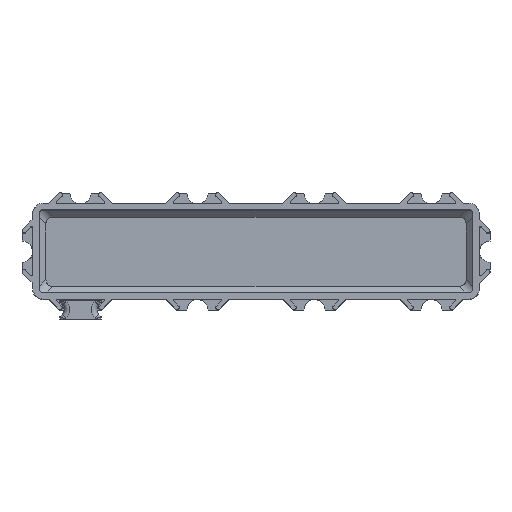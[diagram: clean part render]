
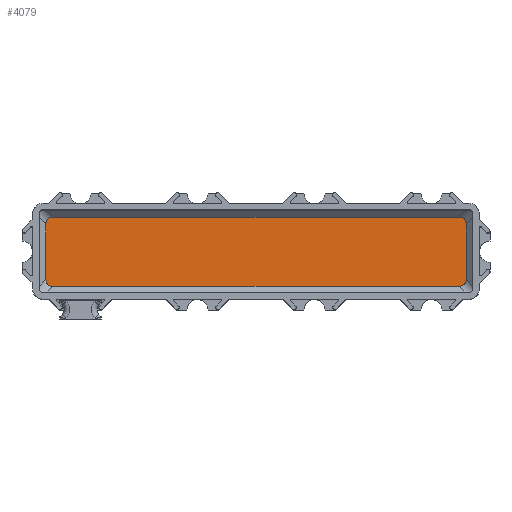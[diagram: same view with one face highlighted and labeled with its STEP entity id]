
A CAD part, top view. The second image highlights one B-rep face of the part: STEP entity #4079.
In plain terms, the highlighted planar face has unit normal (0, 0, 1).
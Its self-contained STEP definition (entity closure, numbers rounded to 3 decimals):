
#324=LINE('',#6716,#684);
#330=LINE('',#6745,#690);
#341=LINE('',#6804,#701);
#343=LINE('',#6807,#703);
#684=VECTOR('',#5507,10.);
#690=VECTOR('',#5527,10.);
#701=VECTOR('',#5564,10.);
#703=VECTOR('',#5568,10.);
#844=PLANE('',#4488);
#1023=FACE_OUTER_BOUND('',#1231,.T.);
#1231=EDGE_LOOP('',(#3400,#3401,#3402,#3403,#3404,#3405,#3406,#3407));
#1322=ELLIPSE('',#4462,3.118,1.8);
#1326=ELLIPSE('',#4470,3.118,1.8);
#1329=ELLIPSE('',#4478,3.118,1.8);
#1331=ELLIPSE('',#4482,3.118,1.8);
#1798=VERTEX_POINT('',#6690);
#1799=VERTEX_POINT('',#6691);
#1804=VERTEX_POINT('',#6715);
#1807=VERTEX_POINT('',#6725);
#1810=VERTEX_POINT('',#6744);
#1814=VERTEX_POINT('',#6767);
#1818=VERTEX_POINT('',#6792);
#1819=VERTEX_POINT('',#6793);
#2326=EDGE_CURVE('',#1798,#1799,#1322,.T.);
#2334=EDGE_CURVE('',#1804,#1798,#324,.T.);
#2339=EDGE_CURVE('',#1807,#1804,#1326,.T.);
#2344=EDGE_CURVE('',#1810,#1807,#330,.T.);
#2351=EDGE_CURVE('',#1814,#1810,#1329,.T.);
#2357=EDGE_CURVE('',#1818,#1819,#1331,.T.);
#2363=EDGE_CURVE('',#1819,#1814,#341,.T.);
#2365=EDGE_CURVE('',#1799,#1818,#343,.T.);
#3400=ORIENTED_EDGE('',*,*,#2326,.T.);
#3401=ORIENTED_EDGE('',*,*,#2365,.T.);
#3402=ORIENTED_EDGE('',*,*,#2357,.T.);
#3403=ORIENTED_EDGE('',*,*,#2363,.T.);
#3404=ORIENTED_EDGE('',*,*,#2351,.T.);
#3405=ORIENTED_EDGE('',*,*,#2344,.T.);
#3406=ORIENTED_EDGE('',*,*,#2339,.T.);
#3407=ORIENTED_EDGE('',*,*,#2334,.T.);
#4079=ADVANCED_FACE('',(#1023),#844,.F.);
#4462=AXIS2_PLACEMENT_3D('',#6692,#5493,#5494);
#4470=AXIS2_PLACEMENT_3D('',#6726,#5517,#5518);
#4478=AXIS2_PLACEMENT_3D('',#6768,#5540,#5541);
#4482=AXIS2_PLACEMENT_3D('',#6794,#5551,#5552);
#4488=AXIS2_PLACEMENT_3D('',#6808,#5569,#5570);
#5493=DIRECTION('center_axis',(0.,0.,1.));
#5494=DIRECTION('ref_axis',(-0.707,0.707,0.));
#5507=DIRECTION('',(-1.,0.,0.));
#5517=DIRECTION('center_axis',(0.,0.,1.));
#5518=DIRECTION('ref_axis',(0.707,0.707,0.));
#5527=DIRECTION('',(0.,1.,0.));
#5540=DIRECTION('center_axis',(0.,0.,1.));
#5541=DIRECTION('ref_axis',(0.707,-0.707,0.));
#5551=DIRECTION('center_axis',(0.,0.,1.));
#5552=DIRECTION('ref_axis',(-0.707,-0.707,0.));
#5564=DIRECTION('',(1.,0.,0.));
#5568=DIRECTION('',(0.,-1.,0.));
#5569=DIRECTION('center_axis',(0.,0.,-1.));
#5570=DIRECTION('ref_axis',(-1.,0.,0.));
#6690=CARTESIAN_POINT('',(5.77,17.503,-60.));
#6691=CARTESIAN_POINT('',(4.497,16.23,-60.));
#6692=CARTESIAN_POINT('Origin',(7.043,14.957,-60.));
#6715=CARTESIAN_POINT('',(82.23,17.503,-60.));
#6716=CARTESIAN_POINT('',(33.5,17.503,-60.));
#6725=CARTESIAN_POINT('',(83.503,16.23,-60.));
#6726=CARTESIAN_POINT('Origin',(80.957,14.957,-60.));
#6744=CARTESIAN_POINT('',(83.503,5.77,-60.));
#6745=CARTESIAN_POINT('',(83.503,13.25,-60.));
#6767=CARTESIAN_POINT('',(82.23,4.497,-60.));
#6768=CARTESIAN_POINT('Origin',(80.957,7.043,-60.));
#6792=CARTESIAN_POINT('',(4.497,5.77,-60.));
#6793=CARTESIAN_POINT('',(5.77,4.497,-60.));
#6794=CARTESIAN_POINT('Origin',(7.043,7.043,-60.));
#6804=CARTESIAN_POINT('',(54.5,4.497,-60.));
#6807=CARTESIAN_POINT('',(4.497,8.75,-60.));
#6808=CARTESIAN_POINT('Origin',(44.,11.,-60.));
